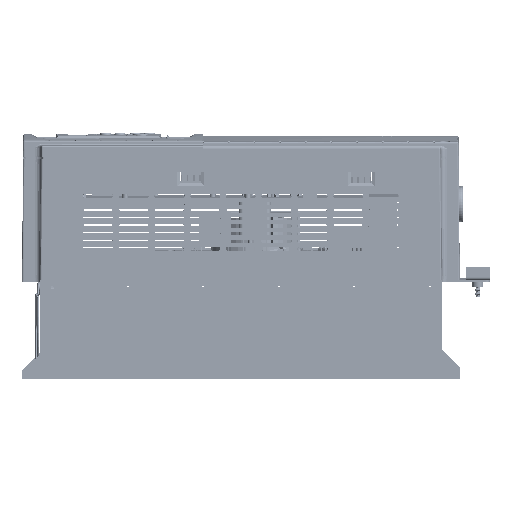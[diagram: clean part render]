
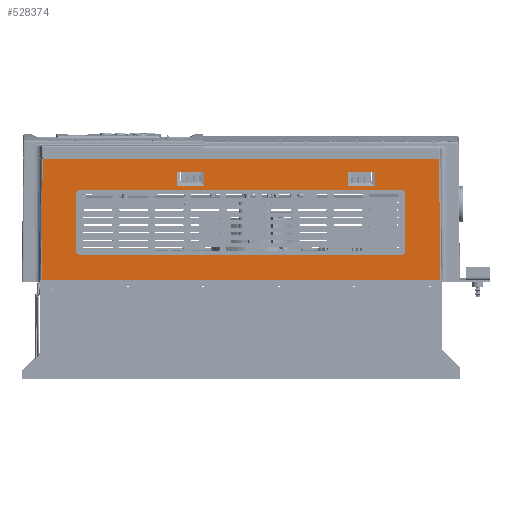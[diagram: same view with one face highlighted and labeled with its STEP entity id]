
A CAD part, left-side view. The second image highlights one B-rep face of the part: STEP entity #528374.
In plain terms, the highlighted planar face has unit normal (-1, 0, 0).
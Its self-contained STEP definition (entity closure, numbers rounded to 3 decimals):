
#7113=FACE_BOUND('',#89120,.T.);
#7114=FACE_BOUND('',#89121,.T.);
#7115=FACE_BOUND('',#89122,.T.);
#34101=CIRCLE('',#566819,0.118);
#34103=CIRCLE('',#566823,0.118);
#34105=CIRCLE('',#566827,0.118);
#34107=CIRCLE('',#566831,0.118);
#59067=FACE_OUTER_BOUND('',#89119,.T.);
#89119=EDGE_LOOP('',(#463868,#463869,#463870,#463871,#463872));
#89120=EDGE_LOOP('',(#463873,#463874,#463875,#463876,#463877,#463878,#463879,
#463880));
#89121=EDGE_LOOP('',(#463881,#463882,#463883,#463884));
#89122=EDGE_LOOP('',(#463885,#463886,#463887,#463888));
#137442=LINE('',#999101,#190506);
#140896=LINE('',#1013679,#193960);
#140900=LINE('',#1013691,#193964);
#140904=LINE('',#1013703,#193968);
#140907=LINE('',#1013714,#193971);
#141398=LINE('',#1014886,#194462);
#141405=LINE('',#1014899,#194469);
#141407=LINE('',#1014903,#194471);
#141426=LINE('',#1014939,#194490);
#141431=LINE('',#1014948,#194495);
#141440=LINE('',#1014966,#194504);
#141443=LINE('',#1014970,#194507);
#141638=LINE('',#1015457,#194702);
#141639=LINE('',#1015461,#194703);
#141640=LINE('',#1015462,#194704);
#141641=LINE('',#1015463,#194705);
#141642=LINE('',#1015464,#194706);
#190506=VECTOR('',#683790,0.394);
#193960=VECTOR('',#694230,2.283);
#193964=VECTOR('',#694242,12.638);
#193968=VECTOR('',#694254,2.283);
#193971=VECTOR('',#694265,12.638);
#194462=VECTOR('',#695372,0.571);
#194469=VECTOR('',#695385,1.063);
#194471=VECTOR('',#695389,0.571);
#194490=VECTOR('',#695418,1.063);
#194495=VECTOR('',#695425,0.571);
#194504=VECTOR('',#695440,1.063);
#194507=VECTOR('',#695445,0.571);
#194702=VECTOR('',#695908,4.733);
#194703=VECTOR('',#695913,15.59);
#194704=VECTOR('',#695914,4.733);
#194705=VECTOR('',#695915,15.508);
#194706=VECTOR('',#695916,1.063);
#233114=VERTEX_POINT('',#924912);
#240594=VERTEX_POINT('',#999100);
#244175=VERTEX_POINT('',#1013672);
#244178=VERTEX_POINT('',#1013677);
#244180=VERTEX_POINT('',#1013683);
#244182=VERTEX_POINT('',#1013689);
#244184=VERTEX_POINT('',#1013695);
#244186=VERTEX_POINT('',#1013701);
#244188=VERTEX_POINT('',#1013707);
#244190=VERTEX_POINT('',#1013712);
#244531=VERTEX_POINT('',#1014883);
#244532=VERTEX_POINT('',#1014885);
#244535=VERTEX_POINT('',#1014898);
#244536=VERTEX_POINT('',#1014902);
#244547=VERTEX_POINT('',#1014937);
#244548=VERTEX_POINT('',#1014938);
#244551=VERTEX_POINT('',#1014947);
#244557=VERTEX_POINT('',#1014965);
#244681=VERTEX_POINT('',#1015454);
#244682=VERTEX_POINT('',#1015456);
#244683=VERTEX_POINT('',#1015460);
#312167=EDGE_CURVE('',#233114,#240594,#137442,.T.);
#317500=EDGE_CURVE('',#244178,#244175,#140896,.T.);
#317503=EDGE_CURVE('',#244180,#244178,#34101,.T.);
#317506=EDGE_CURVE('',#244182,#244180,#140900,.T.);
#317509=EDGE_CURVE('',#244184,#244182,#34103,.T.);
#317512=EDGE_CURVE('',#244186,#244184,#140904,.T.);
#317515=EDGE_CURVE('',#244188,#244186,#34105,.T.);
#317517=EDGE_CURVE('',#244190,#244188,#140907,.T.);
#317520=EDGE_CURVE('',#244175,#244190,#34107,.T.);
#318106=EDGE_CURVE('',#244531,#244532,#141398,.T.);
#318113=EDGE_CURVE('',#244532,#244535,#141405,.T.);
#318115=EDGE_CURVE('',#244535,#244536,#141407,.T.);
#318134=EDGE_CURVE('',#244547,#244548,#141426,.T.);
#318139=EDGE_CURVE('',#244551,#244547,#141431,.T.);
#318148=EDGE_CURVE('',#244557,#244551,#141440,.T.);
#318151=EDGE_CURVE('',#244548,#244557,#141443,.T.);
#318391=EDGE_CURVE('',#244681,#244682,#141638,.T.);
#318393=EDGE_CURVE('',#244683,#244681,#141639,.T.);
#318394=EDGE_CURVE('',#240594,#244683,#141640,.T.);
#318395=EDGE_CURVE('',#233114,#244682,#141641,.T.);
#318396=EDGE_CURVE('',#244536,#244531,#141642,.T.);
#463868=ORIENTED_EDGE('',*,*,#318393,.F.);
#463869=ORIENTED_EDGE('',*,*,#318394,.F.);
#463870=ORIENTED_EDGE('',*,*,#312167,.F.);
#463871=ORIENTED_EDGE('',*,*,#318395,.T.);
#463872=ORIENTED_EDGE('',*,*,#318391,.F.);
#463873=ORIENTED_EDGE('',*,*,#317520,.F.);
#463874=ORIENTED_EDGE('',*,*,#317500,.F.);
#463875=ORIENTED_EDGE('',*,*,#317503,.F.);
#463876=ORIENTED_EDGE('',*,*,#317506,.F.);
#463877=ORIENTED_EDGE('',*,*,#317509,.F.);
#463878=ORIENTED_EDGE('',*,*,#317512,.F.);
#463879=ORIENTED_EDGE('',*,*,#317515,.F.);
#463880=ORIENTED_EDGE('',*,*,#317517,.F.);
#463881=ORIENTED_EDGE('',*,*,#318151,.F.);
#463882=ORIENTED_EDGE('',*,*,#318134,.F.);
#463883=ORIENTED_EDGE('',*,*,#318139,.F.);
#463884=ORIENTED_EDGE('',*,*,#318148,.F.);
#463885=ORIENTED_EDGE('',*,*,#318115,.F.);
#463886=ORIENTED_EDGE('',*,*,#318113,.F.);
#463887=ORIENTED_EDGE('',*,*,#318106,.F.);
#463888=ORIENTED_EDGE('',*,*,#318396,.F.);
#486544=PLANE('',#567286);
#528374=ADVANCED_FACE('',(#59067,#7113,#7114,#7115),#486544,.T.);
#566819=AXIS2_PLACEMENT_3D('',#1013685,#694236,#694237);
#566823=AXIS2_PLACEMENT_3D('',#1013697,#694248,#694249);
#566827=AXIS2_PLACEMENT_3D('',#1013709,#694260,#694261);
#566831=AXIS2_PLACEMENT_3D('',#1013718,#694271,#694272);
#567286=AXIS2_PLACEMENT_3D('',#1015459,#695911,#695912);
#683790=DIRECTION('',(0.,-1.,0.));
#694230=DIRECTION('',(0.,0.,1.));
#694236=DIRECTION('center_axis',(-1.,0.,0.));
#694237=DIRECTION('ref_axis',(0.,0.,
-1.));
#694242=DIRECTION('',(0.,-1.,0.));
#694248=DIRECTION('center_axis',(-1.,0.,0.));
#694249=DIRECTION('ref_axis',(0.,1.,0.));
#694254=DIRECTION('',(0.,0.,-1.));
#694260=DIRECTION('center_axis',(-1.,0.,0.));
#694261=DIRECTION('ref_axis',(0.,0.,
1.));
#694265=DIRECTION('',(0.,1.,0.));
#694271=DIRECTION('center_axis',(-1.,0.,0.));
#694272=DIRECTION('ref_axis',(0.,-1.,0.));
#695372=DIRECTION('',(0.,0.,-1.));
#695385=DIRECTION('',(0.,-1.,0.));
#695389=DIRECTION('',(0.,0.,1.));
#695418=DIRECTION('',(0.,1.,0.));
#695425=DIRECTION('',(0.,0.,1.));
#695440=DIRECTION('',(0.,-1.,0.));
#695445=DIRECTION('',(0.,0.,-1.));
#695908=DIRECTION('',(0.,-0.009,1.));
#695911=DIRECTION('center_axis',(-1.,0.,0.));
#695912=DIRECTION('ref_axis',(0.,-1.,0.));
#695913=DIRECTION('',(0.,1.,0.));
#695914=DIRECTION('',(0.,-0.009,-1.));
#695915=DIRECTION('',(0.,1.,0.));
#695916=DIRECTION('',(0.,1.,0.));
#924912=CARTESIAN_POINT('',(-21.515,-1.937,3.082));
#999100=CARTESIAN_POINT('',(-21.515,-11.143,3.082));
#999101=CARTESIAN_POINT('',(-21.515,-0.726,3.082));
#1013672=CARTESIAN_POINT('',(-21.515,-9.826,1.744));
#1013677=CARTESIAN_POINT('',(-21.515,-9.826,-0.54));
#1013679=CARTESIAN_POINT('',(-21.515,-9.826,-0.54));
#1013683=CARTESIAN_POINT('',(-21.515,-9.708,-0.658));
#1013685=CARTESIAN_POINT('Origin',(-21.515,-9.708,
-0.54));
#1013689=CARTESIAN_POINT('',(-21.515,2.93,-0.658));
#1013691=CARTESIAN_POINT('',(-21.515,2.93,-0.658));
#1013695=CARTESIAN_POINT('',(-21.515,3.048,-0.54));
#1013697=CARTESIAN_POINT('Origin',(-21.515,2.93,-0.54));
#1013701=CARTESIAN_POINT('',(-21.515,3.048,1.744));
#1013703=CARTESIAN_POINT('',(-21.515,3.048,1.744));
#1013707=CARTESIAN_POINT('',(-21.515,2.93,1.862));
#1013709=CARTESIAN_POINT('Origin',(-21.515,2.93,1.744));
#1013712=CARTESIAN_POINT('',(-21.515,-9.708,1.862));
#1013714=CARTESIAN_POINT('',(-21.515,-9.708,1.862));
#1013718=CARTESIAN_POINT('Origin',(-21.515,-9.708,
1.744));
#1014883=CARTESIAN_POINT('',(-21.515,-0.889,2.591));
#1014885=CARTESIAN_POINT('',(-21.515,-0.889,2.02));
#1014886=CARTESIAN_POINT('',(-21.515,-0.889,2.591));
#1014898=CARTESIAN_POINT('',(-21.515,-1.952,2.02));
#1014899=CARTESIAN_POINT('',(-21.515,-0.889,2.02));
#1014902=CARTESIAN_POINT('',(-21.515,-1.952,2.591));
#1014903=CARTESIAN_POINT('',(-21.515,-1.952,2.02));
#1014937=CARTESIAN_POINT('',(-21.515,-8.626,2.591));
#1014938=CARTESIAN_POINT('',(-21.515,-7.563,2.591));
#1014939=CARTESIAN_POINT('',(-21.515,-8.626,2.591));
#1014947=CARTESIAN_POINT('',(-21.515,-8.626,2.02));
#1014948=CARTESIAN_POINT('',(-21.515,-8.626,2.02));
#1014965=CARTESIAN_POINT('',(-21.515,-7.563,2.02));
#1014966=CARTESIAN_POINT('',(-21.515,-7.563,2.02));
#1014970=CARTESIAN_POINT('',(-21.515,-7.563,2.591));
#1015454=CARTESIAN_POINT('',(-21.515,4.406,-1.65));
#1015456=CARTESIAN_POINT('',(-21.515,4.365,3.082));
#1015457=CARTESIAN_POINT('',(-21.515,4.406,-1.65));
#1015459=CARTESIAN_POINT('Origin',(-21.515,5.462,-1.662));
#1015460=CARTESIAN_POINT('',(-21.515,-11.184,-1.65));
#1015461=CARTESIAN_POINT('',(-21.515,-11.184,-1.65));
#1015462=CARTESIAN_POINT('',(-21.515,-11.143,3.082));
#1015463=CARTESIAN_POINT('',(-21.515,-11.143,3.082));
#1015464=CARTESIAN_POINT('',(-21.515,-1.952,2.591));
